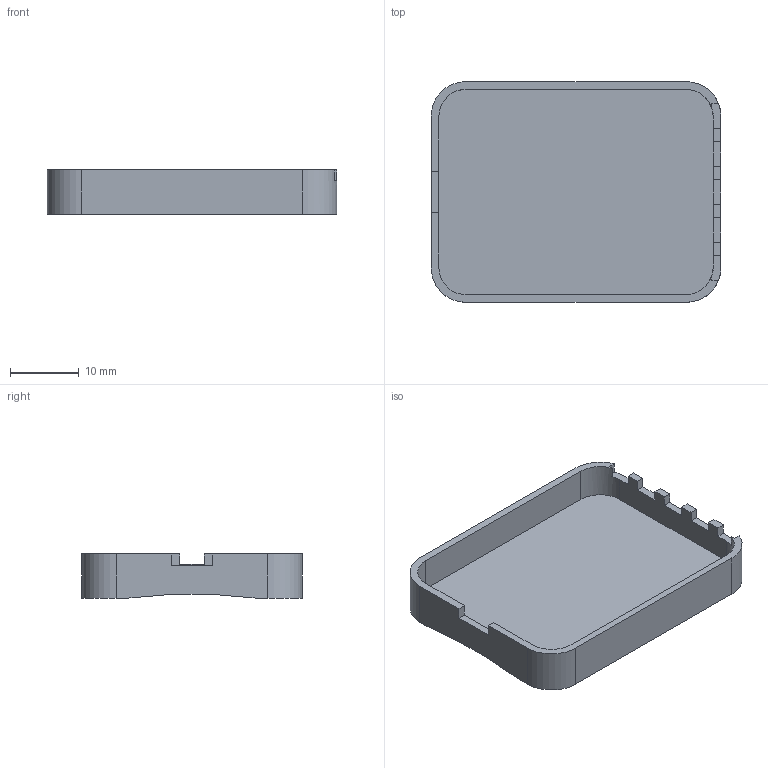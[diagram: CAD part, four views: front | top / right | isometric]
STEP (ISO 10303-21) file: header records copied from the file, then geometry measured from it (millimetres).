
FILE_DESCRIPTION(('Open CASCADE Model'),'2;1');
FILE_NAME('Open CASCADE Shape Model','2026-10-04T21:33:04',('Author'),( 'Open CASCADE'),'Open CASCADE STEP processor 7.9','Open CASCADE 7.9' ,'Unknown');
FILE_SCHEMA(('AUTOMOTIVE_DESIGN { 1 0 10303 214 1 1 1 1 }'));
Length unit declared in the file: millimetre
Products named in the file (1): Open CASCADE STEP translator 7.9 7
Bounding box: 42 x 32 x 6.4 mm (x, y, z)
Volume: 2254.2 mm3; surface area: 4135.7 mm2
Topology: 1 solids, 1 shells, 46 faces, 132 edges, 88 vertices
Faces by surface type: plane 37, cylinder 9
Entity records: 3128 total; most frequent: CARTESIAN_POINT 699, DIRECTION 384, ORIENTED_EDGE 264, PCURVE 264, DEFINITIONAL_REPRESENTATION 264, LINE 232, VECTOR 232, EDGE_CURVE 132
